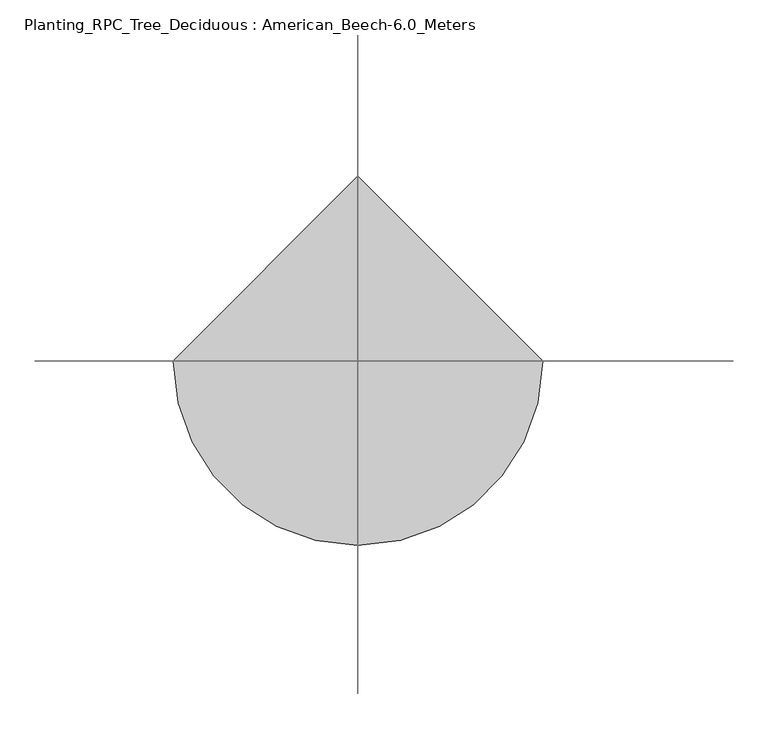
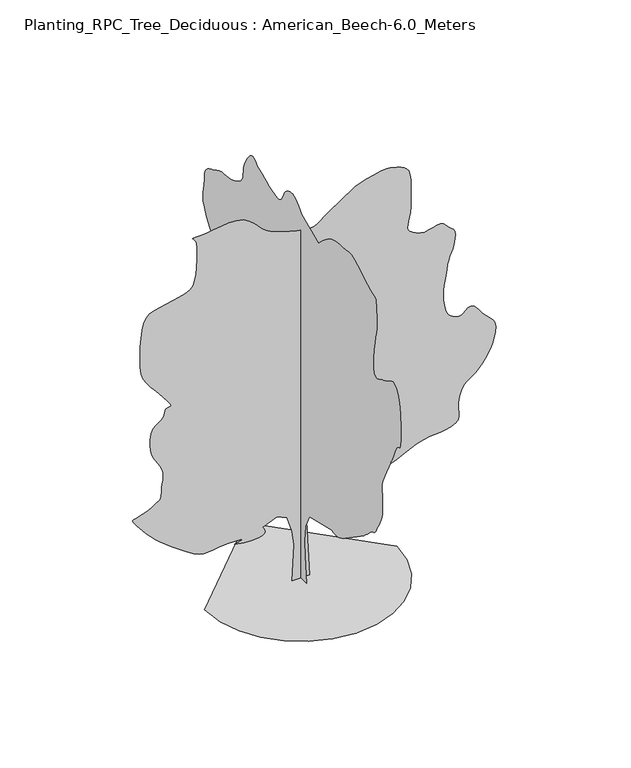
"""IFC4 building model written with IfcOpenShell, lengths in millimetres: geographic element geometry, Planting_RPC_Tree_Deciduous : American_Beech-6.0_Meters."""

from ifc_helpers import new_model, si_unit, origin, place, context, project, spatial, triangles, source, transform, mapped, element, save


def planting_rpc_tree_deciduous_american_beech_6_0_meters_192016b0(model_context):
    return source(origin(), model_context, "Body", "Tessellation", [
        triangles([(0.0009733, 134.7013619, 0.0), (0.0009733, -147.494867, 0.0), (0.0009733, -109.8685844, 413.8878181), (0.0009733, -100.4623272, 649.050499), (0.0009733, -119.2748417, 884.2131798), (0.0009733, -232.153435, 1100.5633461), (0.0009733, -805.9506603, 1241.6609837), (0.0009733, -836.5581671, 1230.0334957), (0.0009733, -869.3831984, 1221.2035114), (0.0009733, -906.6532345, 1217.965991), (0.0009733, -950.5882708, 1223.1234524), (0.0009733, -1003.4058317, 1239.4685303), (0.0009733, -1067.3308542, 1269.7985104), (0.0009733, -1144.5859497, 1316.9135124), (0.0009733, -1455.0011593, 1533.2636787), (0.0009733, -1498.8811844, 1564.1163013), (0.0009733, -1542.2661816, 1593.486311), (0.0009733, -1585.8162849, 1623.3513485), (0.0009733, -1630.1888672, 1655.6862934), (0.0009733, -1676.041301, 1692.4613743), (0.0009733, -1724.0338657, 1735.6539413), (0.0009733, -1774.8239342, 1787.2388741), (0.0009733, -1818.8389801, 1828.7590141), (0.0009733, -1849.3615356, 1847.5739994), (0.0009733, -1871.3289448, 1854.3740204), (0.0009733, -1889.6765167, 1859.8590054), (0.0009733, -1909.3389793, 1874.723941), (0.0009733, -1935.2541126, 1909.6614887), (0.0009733, -1972.3591152, 1975.3715767), (0.0009733, -2012.7566494, 2050.40159), (0.0009733, -2045.5841515, 2111.4491718), (0.0009733, -2071.3341785, 2166.4067184), (0.0009733, -2090.5042294, 2223.1767998), (0.0009733, -2103.5867157, 2289.651812), (0.0009733, -2111.0717239, 2373.7344704), (0.0009733, -2113.4592236, 2483.3219673), (0.0009733, -2108.7967175, 2583.5521866), (0.0009733, -2099.1991928, 2645.9521568), (0.0009733, -2091.2441551, 2687.927211), (0.0009733, -2091.5191383, 2726.9521545), (0.0009733, -2106.6016479, 2780.4520866), (0.0009733, -2143.0767471, 2865.9023941), (0.0009733, -2207.5242668, 3000.6773071), (0.0009733, -2272.3543213, 3131.8524399), (0.0009733, -2311.5169018, 3208.0524399), (0.0009733, -2333.894315, 3249.2275429), (0.0009733, -2348.3743904, 3275.2526985), (0.0009733, -2363.8419056, 3306.0525627), (0.0009733, -2389.1819286, 3361.5276649), (0.0009733, -2433.2793823, 3461.6026611), (0.0009733, -2483.0818657, 3552.8029083), (0.0009733, -2520.7019531, 3587.7528099), (0.0009733, -2547.8020432, 3595.3779259), (0.0009733, -2566.002095, 3604.6529411), (0.0009733, -2576.9770065, 3644.5278328), (0.0009733, -2582.3519691, 3743.9528687), (0.0009733, -2583.7771729, 3931.9280228), (0.0009733, -2574.1771774, 4144.4034256), (0.0009733, -2548.4520035, 4302.6033623), (0.0009733, -2511.2269501, 4413.2285866), (0.0009733, -2467.0668549, 4483.053685), (0.0009733, -2420.6093708, 4518.8035378), (0.0009733, -2376.4568333, 4527.2536034), (0.0009733, -2339.2143391, 4515.1284714), (0.0009733, -2306.9368034, 4495.0285355), (0.0009733, -2274.4943069, 4475.2535797), (0.0009733, -2241.7217434, 4456.1535828), (0.0009733, -2208.456768, 4438.0035278), (0.0009733, -2174.5318039, 4421.2036812), (0.0009733, -2139.7866863, 4406.0284447), (0.0009733, -2104.0516582, 4392.8533768), (0.0009733, -2063.4090809, 4373.6783844), (0.0009733, -2017.3366024, 4348.9034431), (0.0009733, -1970.769096, 4331.3783501), (0.0009733, -1928.6465218, 4333.9284851), (0.0009733, -1895.9015728, 4369.4033546), (0.0009733, -1877.4714478, 4450.6036308), (0.0009733, -1878.294072, 4590.3785294), (0.0009733, -1893.3515831, 4743.5287743), (0.0009733, -1912.3565277, 4862.9287537), (0.0009733, -1932.3490574, 4958.6287262), (0.0009733, -1950.3665623, 5040.6789505), (0.0009733, -1963.4490486, 5119.1288132), (0.0009733, -1968.6315811, 5203.9794479), (0.0009733, -1962.9540207, 5305.2790787), (0.0009733, -1955.0840069, 5402.479541), (0.0009733, -1951.8190899, 5472.3543457), (0.0009733, -1947.4040977, 5521.0042831), (0.0009733, -1936.0790623, 5554.5045639), (0.0009733, -1912.0815445, 5578.9792328), (0.0009733, -1869.6565178, 5600.4796646), (0.0009733, -1803.044014, 5625.1043243), (0.0009733, -1720.9064404, 5661.3794357), (0.0009733, -1636.6338226, 5709.179425), (0.0009733, -1551.5337845, 5761.6047134), (0.0009733, -1466.931245, 5811.7045624), (0.0009733, -1384.1386242, 5852.579393), (0.0009733, -1304.4711033, 5877.3546249), (0.0009733, -1229.2460438, 5879.0795197), (0.0009733, -1155.7484224, 5869.4295273), (0.0009733, -1081.2633614, 5862.9049255), (0.0009733, -1007.1082947, 5856.8547134), (0.0009733, -934.5982584, 5848.679631), (0.0009733, -865.0506866, 5835.7548386), (0.0009733, -799.7806154, 5815.4049179), (0.0009733, -740.1056242, 5785.0044479), (0.0009733, -686.9580688, 5749.2798843), (0.0009733, -639.7330444, 5714.5296799), (0.0009733, -597.445473, 5680.604425), (0.0009733, -559.105444, 5647.3547104), (0.0009733, -523.727916, 5614.5793854), (0.0009733, -490.3253763, 5582.1296219), (0.0009733, -457.9103491, 5549.8542664), (0.0009733, -15.8033629, 5737.9794113), (0.0009733, 22.480868, 5779.9547562), (0.0009733, 60.6827967, 5819.9046432), (0.0009733, 98.7203278, 5855.7047836), (0.0009733, 136.5108627, 5885.354718), (0.0009733, 173.9723933, 5906.7795731), (0.0009733, 211.0226754, 5917.9044754), (0.0009733, 247.5792013, 5916.7045486), (0.0009733, 282.6827272, 5907.9045044), (0.0009733, 315.3177446, 5896.9545914), (0.0009733, 345.3202738, 5882.8798691), (0.0009733, 372.5252993, 5864.7048157), (0.0009733, 396.7678239, 5841.4294922), (0.0009733, 417.8828505, 5812.054541), (0.0009733, 435.7103597, 5775.6044403), (0.0009733, 452.7128466, 5735.1795822), (0.0009733, 472.6778707, 5696.4046234), (0.0009733, 497.4153869, 5662.079393), (0.0009733, 528.7329157, 5634.979303), (0.0009733, 568.4429555, 5617.9047638), (0.0009733, 618.3554976, 5613.7044388), (0.0009733, 680.2805695, 5625.1043243), (0.0009733, 747.7156248, 5646.6297546), (0.0009733, 813.1781261, 5670.6294525), (0.0009733, 876.993199, 5696.6796066), (0.0009733, 939.4932358, 5724.37966), (0.0009733, 1001.0058329, 5753.3046387), (0.0009733, 1061.8608393, 5783.054567), (0.0009733, 1122.385924, 5813.2294693), (0.0009733, 1150.6609423, 5838.9296448), (0.0009733, 1179.2634115, 5861.579425), (0.0009733, 1208.5259422, 5878.1545761), (0.0009733, 1238.7735146, 5885.5797043), (0.0009733, 1270.3410645, 5880.8299942), (0.0009733, 1303.5511013, 5860.8794678), (0.0009733, 1338.7360176, 5822.6294769), (0.0009733, 1373.2086227, 5775.8044281), (0.0009733, 1403.7311783, 5731.2548218), (0.0009733, 1429.8111271, 5687.8795624), (0.0009733, 1450.9562027, 5644.4793045), (0.0009733, 1466.6712318, 5599.9546967), (0.0009733, 1476.4611866, 5553.1046494), (0.0009733, 1479.8336552, 5502.8042313), (0.0009733, 1483.4812523, 5452.1044189), (0.0009733, 1495.191148, 5404.7044052), (0.0009733, 1516.1161789, 5360.4042023), (0.0009733, 1547.4087456, 5319.0793991), (0.0009733, 1590.2163071, 5280.554425), (0.0009733, 1645.6963509, 5244.6542908), (0.0009733, 1714.996336, 5211.204007), (0.0009733, 1788.9063595, 5186.2043701), (0.0009733, 1858.2064899, 5172.3790512), (0.0009733, 1924.0515987, 5164.8039322), (0.0009733, 1987.5940865, 5158.5543137), (0.0009733, 2049.9841736, 5148.679335), (0.0009733, 2112.3742607, 5130.2542969), (0.0009733, 2175.9167484, 5098.32892), (0.0009733, 2240.5017597, 5064.3292511), (0.0009733, 2303.2743816, 5038.2291), (0.0009733, 2361.2769459, 5012.9289001), (0.0009733, 2411.5469879, 4981.4040802), (0.0009733, 2451.1195724, 4936.5289124), (0.0009733, 2477.0345604, 4871.2538269), (0.0009733, 2486.331958, 4778.503965), (0.0009733, 2492.5844833, 4683.078685), (0.0009733, 2506.4019539, 4608.2036041), (0.0009733, 2520.4019714, 4544.5287117), (0.0009733, 2527.1521408, 4482.6537094), (0.0009733, 2519.2520416, 4413.2285866), (0.0009733, 2489.2945679, 4326.8283371), (0.0009733, 2429.8919437, 4214.1282394), (0.0009733, 2356.3968658, 4101.0031677), (0.0009733, 2289.9743214, 4014.028244), (0.0009733, 2231.9442879, 3944.8531059), (0.0009733, 2183.6218014, 3885.0279785), (0.0009733, 2146.3266941, 3826.2030807), (0.0009733, 2121.3692059, 3759.9780533), (0.0009733, 2110.0716396, 3677.9528275), (0.0009733, 2115.5842392, 3588.602758), (0.0009733, 2136.8916595, 3505.6778778), (0.0009733, 2169.0617889, 3428.6526375), (0.0009733, 2207.1542313, 3357.0776459), (0.0009733, 2246.2317879, 3290.4526428), (0.0009733, 2281.3643818, 3228.2526604), (0.0009733, 2307.6092915, 3170.0024368), (0.0009733, 2333.0293968, 3130.6025162), (0.0009733, 2364.704353, 3115.0525932), (0.0009733, 2396.2143482, 3108.0524391), (0.0009733, 2421.1443672, 3094.3024063), (0.0009733, 2433.074453, 3058.5275551), (0.0009733, 2425.586974, 2985.3773689), (0.0009733, 2392.2669147, 2859.5771988), (0.0009733, 2346.3593971, 2717.8521286), (0.0009733, 2303.741795, 2602.2772064), (0.0009733, 2261.946817, 2505.6519997), (0.0009733, 2218.506736, 2420.6843662), (0.0009733, 2170.9542606, 2340.1668972), (0.0009733, 2116.8167221, 2256.8517792), (0.0009733, 2053.6316254, 2163.5016632), (0.0009733, 1990.2540985, 2069.4091507), (0.0009733, 1937.0790012, 1987.8215435), (0.0009733, 1893.941518, 1917.4240963), (0.0009733, 1860.6739265, 1856.8965408), (0.0009733, 1837.1164982, 1804.928928), (0.0009733, 1823.1039814, 1760.1989548), (0.0009733, 1818.4689445, 1721.3939106), (0.0009733, 1822.4189941, 1694.76385), (0.0009733, 1831.633984, 1682.286414), (0.0009733, 1842.1640099, 1676.2263187), (0.0009733, 1850.0614929, 1668.8488621), (0.0009733, 1851.3789997, 1652.4213764), (0.0009733, 1842.1640099, 1619.2113396), (0.0009733, 1818.4689445, 1561.4837585), (0.0009733, 1798.7513981, 1500.5736683), (0.0009733, 1796.6388817, 1458.9161819), (0.0009733, 1800.9439968, 1430.4235897), (0.0009733, 1800.4789089, 1409.0036762), (0.0009733, 1784.0514233, 1388.5736732), (0.0009733, 1740.4738506, 1363.0410748), (0.0009733, 1658.5587925, 1326.3210777), (0.0009733, 1569.2912762, 1288.8036003), (0.0009733, 1504.2137077, 1262.3110313), (0.0009733, 1452.9586967, 1242.8959373), (0.0009733, 1405.1585621, 1226.6059433), (0.0009733, 1350.4460587, 1209.4934704), (0.0009733, 1278.4585922, 1187.608469), (0.0009733, 1178.8259382, 1157.003433), (0.0009733, 1078.8083513, 1127.6584219), (0.0009733, 1006.4358067, 1109.9959099), (0.0009733, 952.4932417, 1100.7283796), (0.0009733, 907.7631958, 1096.558358), (0.0009733, 863.0356934, 1094.2008711), (0.0009733, 809.0906576, 1090.3608438), (0.0009733, 736.7181129, 1081.7508316), (0.0009733, 652.0604897, 1068.0108273), (0.0009733, 567.4004683, 1051.3083584), (0.0009733, 482.7428813, 1032.140851), (0.0009733, 398.0828236, 1010.9957754), (0.0009733, 313.4252366, 988.3707756), (0.0009733, 228.7664324, 964.7582634), (0.0009733, 144.1076192, 940.6532667), (134.0396109, 0.0003104, 0.0138465), (-129.3426047, 0.0003104, 0.0138465), (-101.123079, 0.0002775, 554.9979549), (-129.3426047, 0.000265, 780.7556139), (-204.5949064, 0.0002508, 1015.9182947), (-355.1002728, 0.0002461, 1091.1708961), (-571.4504391, 0.0002508, 997.1057802), (-553.8429382, 0.0002524, 972.9983128), (-539.4454159, 0.000254, 949.3882713), (-531.465416, 0.0002555, 926.7632715), (-533.1104101, 0.0002571, 905.6181959), (-547.5904492, 0.0002587, 886.4482178), (-578.1129684, 0.0002587, 869.7482197), (-627.8879826, 0.0002602, 856.0082153), (-686.4380424, 0.0002602, 846.9306444), (-741.5356241, 0.0002602, 843.2831926), (-793.7506056, 0.0002602, 844.1606827), (-843.663184, 0.0002602, 848.6581553), (-891.8481789, 0.0002602, 855.8706511), (-938.8807732, 0.0002587, 864.8932108), (-985.3357864, 0.0002587, 874.8207298), (-938.2757229, 0.0002587, 886.8056814), (-899.1156858, 0.0002571, 898.1307169), (-875.7482168, 0.0002571, 908.1407164), (-876.0782112, 0.0002555, 916.1757637), (-908.000754, 0.0002555, 921.5782682), (-979.4132555, 0.0002555, 923.690712), (-1098.2133442, 0.0002555, 921.8532515), (-1223.378524, 0.0002571, 913.2156973), (-1316.2934921, 0.0002571, 899.9682501), (-1388.4736794, 0.0002571, 889.0256767), (-1451.4387314, 0.0002571, 887.2982386), (-1516.7087299, 0.0002571, 901.6956882), (-1595.8012859, 0.0002555, 939.1307579), (-1700.2313942, 0.0002508, 1006.5108021), (-1816.016478, 0.0002461, 1088.4284037), (-1921.6016029, 0.0002414, 1165.4084433), (-2017.1466431, 0.0002367, 1238.2735451), (-2102.8191753, 0.0002336, 1307.8509842), (-2178.7867767, 0.0002289, 1374.9560452), (-2245.2068504, 0.0002242, 1440.4186192), (-2302.2492989, 0.0002211, 1505.0587143), (-2354.1368294, 0.0002179, 1567.5838223), (-2402.8969345, 0.0002132, 1625.1762371), (-2445.4045143, 0.0002101, 1676.3488403), (-2478.5318527, 0.0002085, 1719.6238152), (-2499.1544312, 0.0002069, 1753.5214554), (-2504.1520912, 0.0002054, 1776.5588573), (-2490.3793854, 0.0002038, 1787.2539894), (-2459.3920326, 0.0002038, 1794.0263958), (-2417.5419708, 0.0002038, 1805.7364368), (-2368.9443558, 0.0002022, 1821.5614883), (-2317.716814, 0.0002007, 1840.6764553), (-2267.9692692, 0.0001991, 1862.2590042), (-2223.8167316, 0.0001991, 1885.4865108), (-2189.3717411, 0.0001975, 1909.5389671), (-2162.3867603, 0.000196, 1927.8015152), (-2138.1966671, 0.000196, 1938.169051), (-2117.2992508, 0.0001944, 1946.561562), (-2100.1866325, 0.0001944, 1958.9015064), (-2087.3541309, 0.0001928, 1981.1165749), (-2079.291687, 0.0001897, 2019.1266094), (-2076.4941833, 0.0001866, 2078.8566845), (-2072.5992176, 0.0001834, 2146.7042873), (-2063.769088, 0.0001787, 2206.9817127), (-2054.2791149, 0.0001756, 2262.4893711), (-2048.4115952, 0.0001725, 2316.0218594), (-2050.4417038, 0.0001693, 2370.3768265), (-2064.6466507, 0.0001662, 2428.3494507), (-2095.3066978, 0.0001615, 2492.7420319), (-2134.2492336, 0.0001583, 2555.8271347), (-2169.5717869, 0.0001552, 2611.5022247), (-2199.9567055, 0.0001521, 2665.0271553), (-2224.0917149, 0.0001489, 2721.6771858), (-2240.6542213, 0.0001442, 2786.727285), (-2248.3342758, 0.0001395, 2865.4274231), (-2245.8117554, 0.0001348, 2963.0772766), (-2228.8892418, 0.0001286, 3053.9275452), (-2197.981826, 0.0001254, 3115.1525871), (-2158.6842247, 0.0001223, 3156.3273994), (-2116.5866489, 0.0001207, 3186.952565), (-2077.289193, 0.0001191, 3216.6024994), (-2046.3816319, 0.000116, 3254.8024933), (-2029.4615891, 0.0001129, 3311.1025452), (-2011.7716805, 0.0001113, 3359.2778023), (-1982.4015255, 0.0001097, 3377.3025742), (-1952.6991234, 0.0001097, 3381.2026268), (-1934.0241005, 0.0001082, 3386.9025696), (-1937.7264908, 0.0001082, 3410.3775902), (-1975.1615604, 0.0001035, 3467.6028763), (-2057.6791981, 9.72e-05, 3574.5027466), (-2156.9017754, 9.09e-05, 3694.6029739), (-2237.5292667, 8.47e-05, 3789.0530228), (-2300.5494026, 8e-05, 3870.1780128), (-2346.9519482, 7.53e-05, 3950.303064), (-2377.7218723, 7.05e-05, 4041.8032928), (-2393.8469055, 6.27e-05, 4156.9782394), (-2396.3144875, 5.33e-05, 4308.2033112), (-2391.2694466, 4.39e-05, 4470.0786049), (-2382.4394623, 3.61e-05, 4609.2538307), (-2367.1893757, 2.98e-05, 4726.0536781), (-2342.8918762, 2.35e-05, 4820.8039993), (-2306.911805, 1.88e-05, 4893.8541916), (-2256.6142937, 1.57e-05, 4945.4789474), (-2189.3717411, 1.41e-05, 4976.0538254), (-2104.7391163, 1.25e-05, 4994.8788391), (-2008.7541321, 1.25e-05, 5012.5289246), (-1908.491502, 1.1e-05, 5031.3539383), (-1811.0265209, 9.4e-06, 5053.6293228), (-1723.4339024, 7.8e-06, 5081.653775), (-1652.7887959, 6.3e-06, 5117.7288986), (-1606.1663509, 3.1e-06, 5164.2039688), (-1578.8513031, -1.6e-06, 5232.7044388), (-1560.4237942, -6.3e-06, 5326.3795349), (-1549.3987404, -1.25e-05, 5434.7043182), (-1544.298761, -2.04e-05, 5547.1544312), (-1543.6387722, -2.67e-05, 5653.1793549), (-1545.9437187, -3.14e-05, 5742.2547318), (-1549.7288074, -3.45e-05, 5803.8294617), (-1560.9438206, -3.76e-05, 5842.6794159), (-1580.7187763, -3.92e-05, 5871.4799835), (-1600.3263004, -4.08e-05, 5891.7049118), (-1611.0487564, -4.08e-05, 5904.879689), (-1604.1663277, -4.23e-05, 5912.4298096), (-1570.95382, -4.23e-05, 5915.9045975), (-1502.6962132, -4.23e-05, 5916.7295471), (-1406.2711395, -4.23e-05, 5923.0547424), (-1298.001004, -4.39e-05, 5937.4550262), (-1183.3109116, -4.39e-05, 5953.0046585), (-1067.6358501, -4.39e-05, 5962.7796432), (-956.4032501, -4.39e-05, 5959.9048187), (-855.043158, -4.39e-05, 5937.4550262), (-768.9856201, -4.08e-05, 5888.5045258), (-703.6355392, -3.61e-05, 5829.3546478), (-655.0655388, -3.29e-05, 5779.2298004), (-614.7254866, -3.14e-05, 5735.7045502), (-574.0554763, -2.82e-05, 5696.3046295), (-524.5004342, -2.67e-05, 5658.5546082), (-457.5028522, -2.35e-05, 5619.9546387), (-364.5052946, -2.19e-05, 5578.0792877), (-256.7552037, -1.88e-05, 5538.7543625), (-153.2841212, -1.72e-05, 5508.8044464), (-57.2167973, -1.57e-05, 5487.254599), (28.3195219, -1.57e-05, 5473.1042999), (100.1988258, -1.57e-05, 5465.3791901), (155.2941184, -1.41e-05, 5463.054332), (190.4793981, -1.57e-05, 5465.2042007), (215.8194211, -1.57e-05, 5473.054303), (243.4629373, -1.57e-05, 5487.6295761), (273.410219, -1.72e-05, 5507.6545166), (305.6602309, -1.88e-05, 5531.7792068), (340.2152802, -2.04e-05, 5558.729306), (377.0728051, -2.19e-05, 5587.1293167), (416.2353493, -2.35e-05, 5615.7043167), (792.4981384, -3.92e-05, 5869.679512), (817.2881224, -3.92e-05, 5878.9295288), (882.5581936, -4.08e-05, 5902.1548553), (974.6482847, -4.23e-05, 5932.6297394), (1079.9033426, -4.55e-05, 5963.5795944), (1184.6634453, -4.55e-05, 5988.3048294), (1275.2734669, -4.7e-05, 6000.0046967), (1338.0760288, -4.7e-05, 5991.9796051), (1385.3260517, -4.55e-05, 5975.0550568), (1436.1986732, -4.39e-05, 5961.4297256), (1487.4012165, -4.39e-05, 5946.3044861), (1535.6386791, -4.23e-05, 5924.9546265), (1577.6262325, -4.08e-05, 5892.5548599), (1610.068729, -3.76e-05, 5844.3798935), (1629.6788692, -3.29e-05, 5775.6294388), (1639.0838184, -2.82e-05, 5698.6044891), (1643.8838161, -2.51e-05, 5627.2047775), (1645.2263214, -2.04e-05, 5558.9042953), (1644.2663509, -1.72e-05, 5491.2793533), (1642.1538345, -1.25e-05, 5421.8545212), (1640.0437889, -7.8e-06, 5348.1293701), (1639.0838184, -3.1e-06, 5267.6790482), (1634.0912453, 1.6e-06, 5187.5792862), (1622.1912449, 6.3e-06, 5116.5539703), (1607.9838272, 9.4e-06, 5054.4042755), (1596.0812107, 1.25e-05, 5001.0040466), (1591.0912537, 1.57e-05, 4956.1288788), (1597.6187622, 1.72e-05, 4919.6537796), (1620.2713039, 1.88e-05, 4891.4037598), (1651.9738747, 2.04e-05, 4868.9289688), (1682.6888603, 2.19e-05, 4849.728978), (1712.5813671, 2.19e-05, 4833.6537964), (1741.8138851, 2.35e-05, 4820.5537239), (1770.5564621, 2.35e-05, 4810.2287727), (1798.9665012, 2.51e-05, 4802.5539505), (1827.213905, 2.51e-05, 4797.3289787), (1863.2490601, 2.51e-05, 4800.3037971), (1911.6264851, 2.35e-05, 4812.9788956), (1967.4065105, 2.35e-05, 4828.9287941), (2025.6565887, 2.19e-05, 4841.7788818), (2081.4366142, 2.19e-05, 4845.0539726), (2129.8141846, 2.35e-05, 4832.3788742), (2165.8491943, 2.51e-05, 4797.3289787), (2195.3593117, 2.67e-05, 4758.0787582), (2225.6892918, 2.82e-05, 4731.9538994), (2254.2093533, 2.98e-05, 4711.4536972), (2278.2892788, 3.14e-05, 4688.9536171), (2295.2918747, 3.29e-05, 4656.9288277), (2302.5867783, 3.61e-05, 4607.7786301), (2297.5418827, 4.08e-05, 4533.9534851), (2283.3617889, 4.55e-05, 4455.6536133), (2265.8942505, 4.86e-05, 4393.6536186), (2246.4493618, 5.17e-05, 4341.2033318), (2226.3468098, 5.49e-05, 4291.5284569), (2206.9042465, 5.8e-05, 4237.9035324), (2189.4342373, 6.27e-05, 4173.6033875), (2175.2567596, 6.74e-05, 4091.8531448), (2162.3117649, 7.21e-05, 4004.3782516), (2148.874213, 7.68e-05, 3925.278138), (2136.7516972, 8.15e-05, 3851.452993), (2127.756752, 8.62e-05, 3779.753009), (2123.6991508, 8.94e-05, 3707.0780846), (2126.3866322, 9.41e-05, 3630.302829), (2137.6292599, 9.88e-05, 3546.2777252), (2155.4842747, 0.0001035, 3469.5027603), (2176.791695, 0.0001066, 3413.652681), (2201.5542824, 0.0001097, 3374.2527603), (2229.7742168, 0.0001113, 3346.8526886), (2261.4493183, 0.0001129, 3327.0277359), (2296.5817669, 0.0001129, 3310.302594), (2335.1669117, 0.0001144, 3292.3025299), (2374.57439, 0.0001144, 3289.8526794), (2413.1618603, 0.0001129, 3313.0777153), (2452.4043777, 0.0001113, 3347.3276596), (2493.7893517, 0.0001097, 3377.9778236), (2538.8020111, 0.0001082, 3390.3276512), (2588.9021507, 0.0001097, 3369.8027412), (2645.5771797, 0.0001144, 3301.7025375), (2706.5522369, 0.0001191, 3218.4776756), (2765.8771042, 0.0001223, 3156.4523918), (2819.5773148, 0.0001254, 3106.9525063), (2863.7772331, 0.0001286, 3061.2523888), (2894.4523956, 0.0001317, 3010.6022827), (2907.702459, 0.0001348, 2946.27743), (2899.552375, 0.0001411, 2859.6021973), (2878.1022308, 0.0001458, 2766.3520752), (2853.5522758, 0.0001505, 2686.1020317), (2825.0272728, 0.0001552, 2615.7519653), (2791.7272705, 0.0001583, 2552.1270699), (2752.8273193, 0.0001615, 2492.1121284), (2707.5271774, 0.0001662, 2432.6019527), (2654.9771873, 0.0001693, 2370.4569088), (2600.8270042, 0.0001725, 2317.1443199), (2551.1021324, 0.0001756, 2280.2868313), (2505.6519997, 0.0001772, 2250.9967587), (2464.3344635, 0.0001787, 2220.3917953), (2426.9544777, 0.0001803, 2179.5842571), (2393.3594353, 0.000185, 2119.691692), (2363.3868462, 0.0001897, 2031.8240902), (2347.2343437, 0.000196, 1934.7965824), (2348.1943142, 0.0002007, 1852.2490047), (2355.7344063, 0.0002038, 1782.5363995), (2359.3269196, 0.0002085, 1724.0138088), (2348.4393574, 0.0002116, 1675.0338043), (2312.5418392, 0.0002132, 1633.9512829), (2241.1017231, 0.0002148, 1599.1237576), (2155.26423, 0.0002164, 1575.9487186), (2078.4766205, 0.0002179, 1565.7737583), (2003.661565, 0.0002179, 1560.866209), (1923.7465302, 0.0002179, 1553.4887524), (1831.6565117, 0.0002195, 1535.9111916), (1720.3138893, 0.0002211, 1500.3962082), (1582.6438042, 0.0002258, 1439.2111347), (1432.7436516, 0.0002289, 1368.8411568), (1291.0710491, 0.000232, 1310.483527), (1160.0909626, 0.0002352, 1263.4785473), (1042.2783136, 0.0002383, 1227.1685543), (940.0957426, 0.0002399, 1200.8959574), (856.0131569, 0.0002399, 1184.000913), (792.4981384, 0.0002414, 1175.8284468), (397.4228348, 0.0002414, 1166.4234249), (105.8200852, 0.0002446, 1119.3909033), (87.0075707, 0.0002587, 865.4131645), (-1430.8636791, 0.0, 0.0118397), (-1393.0360462, -327.8602567, 0.0118397), (-1285.305994, -628.9454762, 0.0118397), (-1116.2958887, -894.6331833, 0.0118397), (-894.6331833, -1116.2958887, 0.0118397), (-628.9454762, -1285.305994, 0.0118397), (-327.8602567, -1393.0360462, 0.0118397), (6.25e-05, -1430.8636791, 0.0118397), (327.8602567, -1393.0360462, 0.0118397), (628.9454762, -1285.305994, 0.0118397), (894.6331833, -1116.2958887, 0.0118397), (1116.2958887, -894.6331833, 0.0118397), (1285.305994, -628.9454762, 0.0118397), (1393.0360462, -327.8602567, 0.0118397), (1430.8636791, 0.0001254, 0.0118397), (-0.0001876, 1430.8636791, 0.0118397)], [[1, 2, 3], [254, 1, 3], [254, 3, 4], [254, 4, 5], [254, 5, 6], [53, 54, 55], [52, 53, 55], [201, 202, 203], [201, 203, 204], [200, 201, 204], [222, 223, 224], [52, 55, 56], [200, 204, 205], [199, 200, 205], [253, 254, 6], [221, 222, 224], [221, 224, 225], [229, 230, 231], [229, 231, 232], [228, 229, 232], [228, 232, 233], [227, 228, 233], [252, 253, 6], [221, 225, 226], [220, 221, 226], [199, 205, 206], [198, 199, 206], [62, 63, 64], [61, 62, 64], [61, 64, 65], [60, 61, 65], [60, 65, 66], [59, 60, 66], [59, 66, 67], [59, 67, 68], [58, 59, 68], [58, 68, 69], [58, 69, 70], [57, 58, 70], [57, 70, 71], [57, 71, 72], [57, 72, 73], [57, 73, 74], [56, 57, 74], [52, 56, 74], [51, 52, 74], [50, 51, 74], [50, 74, 75], [49, 50, 75], [48, 49, 75], [47, 48, 75], [46, 47, 75], [45, 46, 75], [44, 45, 75], [43, 44, 75], [42, 43, 75], [42, 75, 76], [41, 42, 76], [227, 233, 234], [226, 227, 234], [220, 226, 234], [219, 220, 234], [219, 234, 235], [219, 235, 236], [219, 236, 237], [218, 219, 237], [218, 237, 238], [218, 238, 239], [218, 239, 240], [217, 218, 240], [217, 240, 241], [217, 241, 242], [217, 242, 243], [217, 243, 244], [217, 244, 245], [217, 245, 246], [216, 217, 246], [216, 246, 247], [215, 216, 247], [215, 247, 248], [251, 252, 6], [88, 89, 90], [88, 90, 91], [87, 88, 91], [87, 91, 92], [86, 87, 92], [86, 92, 93], [85, 86, 93], [84, 85, 93], [84, 93, 94], [83, 84, 94], [82, 83, 94], [81, 82, 94], [81, 94, 95], [80, 81, 95], [80, 95, 96], [80, 96, 97], [80, 97, 98], [80, 98, 99], [80, 99, 100], [80, 100, 101], [80, 101, 102], [80, 102, 103], [80, 103, 104], [80, 104, 105], [80, 105, 106], [80, 106, 107], [80, 107, 108], [80, 108, 109], [80, 109, 110], [80, 110, 111], [80, 111, 112], [79, 80, 112], [79, 112, 113], [78, 79, 113], [77, 78, 113], [76, 77, 113], [41, 76, 113], [40, 41, 113], [40, 113, 114], [39, 40, 114], [198, 206, 207], [197, 198, 207], [196, 197, 207], [196, 207, 208], [195, 196, 208], [195, 208, 209], [195, 209, 210], [195, 210, 211], [194, 195, 211], [194, 211, 212], [194, 212, 213], [193, 194, 213], [193, 213, 214], [214, 215, 248], [193, 214, 248], [193, 248, 249], [192, 193, 249], [192, 249, 250], [192, 250, 251], [192, 251, 6], [192, 6, 7], [191, 192, 7], [190, 191, 7], [189, 190, 7], [38, 39, 114], [37, 38, 114], [36, 37, 114], [35, 36, 114], [34, 35, 114], [33, 34, 114], [32, 33, 114], [31, 32, 114], [30, 31, 114], [29, 30, 114], [28, 29, 114], [27, 28, 114], [26, 27, 114], [25, 26, 114], [24, 25, 114], [23, 24, 114], [22, 23, 114], [21, 22, 114], [20, 21, 114], [19, 20, 114], [18, 19, 114], [17, 18, 114], [16, 17, 114], [15, 16, 114], [14, 15, 114], [13, 14, 114], [12, 13, 114], [11, 12, 114], [10, 11, 114], [9, 10, 114], [8, 9, 114], [7, 8, 114], [189, 7, 114], [188, 189, 114], [188, 114, 115], [188, 115, 116], [188, 116, 117], [188, 117, 118], [188, 118, 119], [188, 119, 120], [188, 120, 121], [146, 147, 148], [145, 146, 148], [144, 145, 148], [144, 148, 149], [143, 144, 149], [143, 149, 150], [142, 143, 150], [142, 150, 151], [142, 151, 152], [141, 142, 152], [141, 152, 153], [141, 153, 154], [141, 154, 155], [141, 155, 156], [140, 141, 156], [140, 156, 157], [139, 140, 157], [138, 139, 157], [138, 157, 158], [137, 138, 158], [137, 158, 159], [136, 137, 159], [135, 136, 159], [135, 159, 160], [134, 135, 160], [134, 160, 161], [174, 175, 176], [173, 174, 176], [173, 176, 177], [172, 173, 177], [171, 172, 177], [171, 177, 178], [170, 171, 178], [170, 178, 179], [169, 170, 179], [168, 169, 179], [167, 168, 179], [166, 167, 179], [165, 166, 179], [165, 179, 180], [165, 180, 181], [165, 181, 182], [165, 182, 183], [165, 183, 184], [165, 184, 185], [165, 185, 186], [165, 186, 187], [164, 165, 187], [164, 187, 188], [163, 164, 188], [162, 163, 188], [161, 162, 188], [134, 161, 188], [133, 134, 188], [132, 133, 188], [125, 126, 127], [124, 125, 127], [124, 127, 128], [123, 124, 128], [122, 123, 128], [121, 122, 128], [121, 128, 129], [121, 129, 130], [121, 130, 131], [188, 121, 131], [132, 188, 131], [274, 275, 276], [531, 255, 256], [531, 256, 257], [531, 257, 258], [531, 258, 259], [530, 531, 259], [376, 377, 378], [376, 378, 379], [375, 376, 379], [273, 274, 276], [273, 276, 277], [375, 379, 380], [374, 375, 380], [273, 277, 278], [272, 273, 278], [301, 302, 303], [301, 303, 304], [300, 301, 304], [300, 304, 305], [299, 300, 305], [299, 305, 306], [298, 299, 306], [298, 306, 307], [297, 298, 307], [297, 307, 308], [271, 272, 278], [296, 297, 308], [296, 308, 309], [373, 374, 380], [373, 380, 381], [372, 373, 381], [295, 296, 309], [295, 309, 310], [294, 295, 310], [294, 310, 311], [294, 311, 312], [294, 312, 313], [293, 294, 313], [293, 313, 314], [292, 293, 314], [271, 278, 279], [291, 292, 314], [530, 259, 260], [372, 381, 382], [371, 372, 382], [291, 314, 315], [290, 291, 315], [371, 382, 383], [370, 371, 383], [370, 383, 384], [369, 370, 384], [369, 384, 385], [369, 385, 386], [369, 386, 387], [369, 387, 388], [369, 388, 389], [369, 389, 390], [368, 369, 390], [368, 390, 391], [367, 368, 391], [367, 391, 392], [367, 392, 393], [366, 367, 393], [366, 393, 394], [270, 271, 279], [366, 394, 395], [338, 339, 340], [338, 340, 341], [289, 290, 315], [483, 484, 485], [483, 485, 486], [482, 483, 486], [481, 482, 486], [481, 486, 487], [480, 481, 487], [288, 289, 315], [287, 288, 315], [286, 287, 315], [285, 286, 315], [284, 285, 315], [283, 284, 315], [282, 283, 315], [282, 315, 316], [281, 282, 316], [281, 316, 317], [281, 317, 318], [281, 318, 319], [281, 319, 320], [280, 281, 320], [280, 320, 321], [279, 280, 321], [279, 321, 322], [480, 487, 488], [264, 265, 266], [263, 264, 266], [263, 266, 267], [262, 263, 267], [262, 267, 268], [261, 262, 268], [261, 268, 269], [261, 269, 270], [261, 270, 279], [261, 279, 322], [260, 261, 322], [530, 260, 322], [530, 322, 323], [529, 530, 323], [529, 323, 324], [366, 395, 396], [365, 366, 396], [337, 338, 341], [337, 341, 342], [529, 324, 325], [528, 529, 325], [527, 528, 325], [526, 527, 325], [525, 526, 325], [524, 525, 325], [523, 524, 325], [522, 523, 325], [521, 522, 325], [521, 325, 326], [521, 326, 327], [521, 327, 328], [521, 328, 329], [521, 329, 330], [521, 330, 331], [521, 331, 332], [521, 332, 333], [521, 333, 334], [521, 334, 335], [521, 335, 336], [521, 336, 337], [521, 337, 342], [520, 521, 342], [520, 342, 343], [519, 520, 343], [518, 519, 343], [518, 343, 344], [517, 518, 344], [449, 450, 451], [448, 449, 451], [448, 451, 452], [447, 448, 452], [446, 447, 452], [446, 452, 453], [516, 517, 344], [515, 516, 344], [514, 515, 344], [513, 514, 344], [512, 513, 344], [511, 512, 344], [510, 511, 344], [509, 510, 344], [508, 509, 344], [507, 508, 344], [506, 507, 344], [505, 506, 344], [504, 505, 344], [503, 504, 344], [502, 503, 344], [501, 502, 344], [500, 501, 344], [499, 500, 344], [498, 499, 344], [497, 498, 344], [496, 497, 344], [495, 496, 344], [494, 495, 344], [493, 494, 344], [492, 493, 344], [491, 492, 344], [490, 491, 344], [489, 490, 344], [488, 489, 344], [480, 488, 344], [479, 480, 344], [478, 479, 344], [477, 478, 344], [476, 477, 344], [475, 476, 344], [474, 475, 344], [473, 474, 344], [472, 473, 344], [471, 472, 344], [470, 471, 344], [469, 470, 344], [468, 469, 344], [467, 468, 344], [466, 467, 344], [465, 466, 344], [464, 465, 344], [463, 464, 344], [463, 344, 345], [462, 463, 345], [462, 345, 346], [461, 462, 346], [460, 461, 346], [459, 460, 346], [458, 459, 346], [457, 458, 346], [456, 457, 346], [455, 456, 346], [454, 455, 346], [453, 454, 346], [446, 453, 346], [445, 446, 346], [444, 445, 346], [443, 444, 346], [442, 443, 346], [441, 442, 346], [440, 441, 346], [439, 440, 346], [438, 439, 346], [437, 438, 346], [436, 437, 346], [435, 436, 346], [435, 346, 347], [435, 347, 348], [435, 348, 349], [435, 349, 350], [435, 350, 351], [435, 351, 352], [435, 352, 353], [435, 353, 354], [435, 354, 355], [435, 355, 356], [435, 356, 357], [435, 357, 358], [435, 358, 359], [435, 359, 360], [435, 360, 361], [435, 361, 362], [435, 362, 363], [435, 363, 364], [435, 364, 365], [435, 365, 396], [435, 396, 397], [435, 397, 398], [435, 398, 399], [435, 399, 400], [435, 400, 401], [435, 401, 402], [435, 402, 403], [435, 403, 404], [435, 404, 405], [435, 405, 406], [435, 406, 407], [435, 407, 408], [435, 408, 409], [434, 435, 409], [433, 434, 409], [432, 433, 409], [431, 432, 409], [430, 431, 409], [429, 430, 409], [429, 409, 410], [429, 410, 411], [429, 411, 412], [428, 429, 412], [428, 412, 413], [427, 428, 413], [426, 427, 413], [426, 413, 414], [425, 426, 414], [425, 414, 415], [425, 415, 416], [425, 416, 417], [424, 425, 417], [424, 417, 418], [423, 424, 418], [423, 418, 419], [422, 423, 419], [422, 419, 420], [421, 422, 420], [546, 547, 532], [545, 546, 532], [545, 532, 533], [544, 545, 533], [544, 533, 534], [544, 534, 535], [543, 544, 535], [542, 543, 535], [542, 535, 536], [542, 536, 537], [542, 537, 538], [542, 538, 539], [542, 539, 540], [542, 540, 541]], closed=False),
    ])


if __name__ == "__main__":
    model = new_model("IFC4")
    model_context = context("Model", 3, world=origin())
    ifc_project = project(units=[si_unit("LENGTHUNIT", "METRE", prefix="MILLI")], contexts=[model_context])
    site = spatial("IfcSite", under=ifc_project)
    building = spatial("IfcBuilding", under=site)
    placement = place(None, origin())
    planting_rpc_tree_deciduous_american_beech_6_0_meters_shape = planting_rpc_tree_deciduous_american_beech_6_0_meters_192016b0(model_context)
    element("IfcGeographicElement", 1, ObjectType="Planting_RPC_Tree_Deciduous : American_Beech-6.0_Meters", at=placement, inside=building, context=model_context, shape_type="MappedRepresentation", body=[
        mapped(planting_rpc_tree_deciduous_american_beech_6_0_meters_shape, transform((0.0, 0.0, 0.0), x_axis=(1.0, 0.0, 0.0), y_axis=(0.0, 1.0, 0.0), z_axis=(0.0, 0.0, 1.0))),
    ])
    save(model, "model.ifc")
